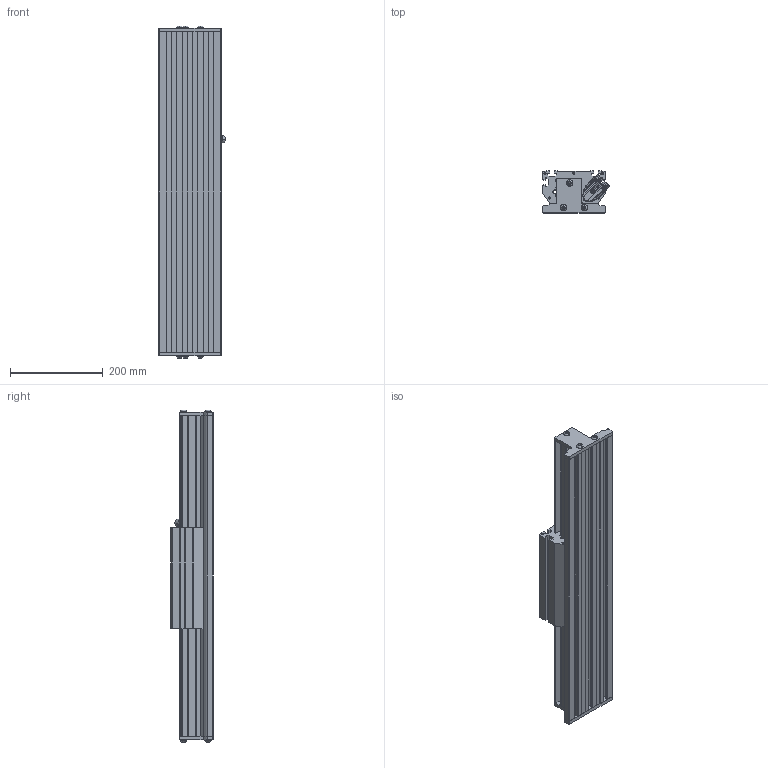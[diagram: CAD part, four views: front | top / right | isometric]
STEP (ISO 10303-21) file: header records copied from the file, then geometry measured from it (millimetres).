
FILE_DESCRIPTION (( 'STEP AP214' ), '1' );
FILE_NAME ('SINADRIVES Linear motor stage MLL20200XS-XX-1-0-ST-00-00708.STEP', '2015-07-06T09:00:08', ( 'Tecnico' ), ( '' ), 'SwSTEP 2.0', 'SolidWorks 2009', '' );
FILE_SCHEMA (( 'AUTOMOTIVE_DESIGN' ));
Length unit declared in the file: millimetre
Products named in the file (7): SINADRIVES PROFILE MLL2XXXX-0692; SINADRIVES CARRIAGE MLL20200XS-1; CARRIAGE MLL20200; Connector power+signal Y-tec 45; SINADRIVES ENDBLOCK MLL2; SINADRIVES ENDBLOCK MLL2-2; SINADRIVES Linear motor stage MLL20200XS-XX-1-0-ST-00-00708
Assembly tree (6 placements, depth 3):
  SINADRIVES Linear motor stage MLL20200XS-XX-1-0-ST-00-00708
    SINADRIVES ENDBLOCK MLL2
    SINADRIVES PROFILE MLL2XXXX-0692
    SINADRIVES ENDBLOCK MLL2-2
    SINADRIVES CARRIAGE MLL20200XS-1
      CARRIAGE MLL20200
      Connector power+signal Y-tec 45
Bounding box: 144.43 x 91 x 716.8 mm (x, y, z)
Volume: 3995915.7 mm3; surface area: 710056.1 mm2
Topology: 2 solids, 42 shells, 950 faces, 2640 edges, 1730 vertices
Faces by surface type: plane 445, cylinder 302, bspline 79, cone 70, torus 42, sphere 12
Entity records: 40587 total; most frequent: CARTESIAN_POINT 8656, ORIENTED_EDGE 5024, DIRECTION 4947, EDGE_CURVE 2622, AXIS2_PLACEMENT_3D 1781, VERTEX_POINT 1730, LINE 1385, VECTOR 1385
